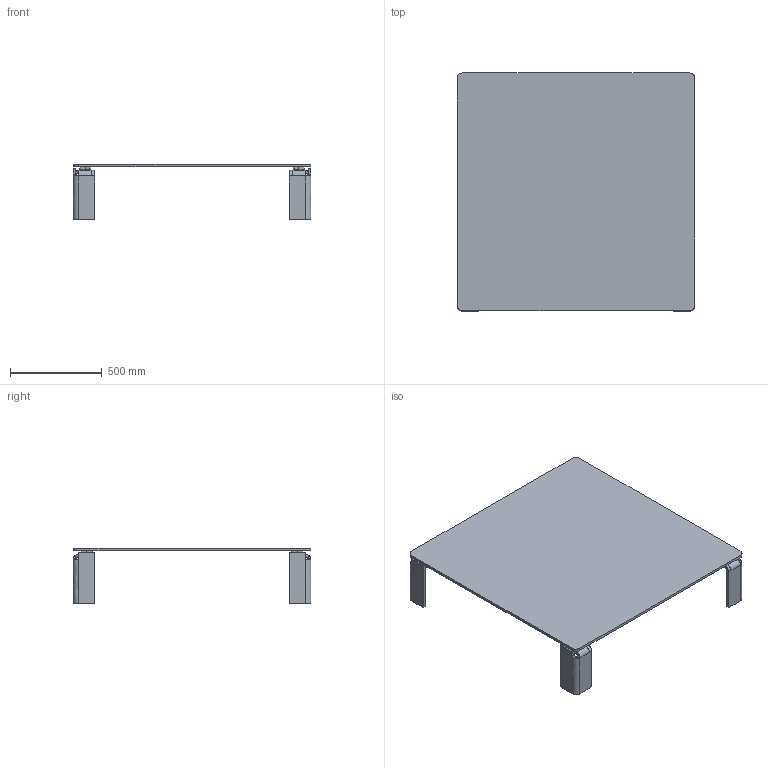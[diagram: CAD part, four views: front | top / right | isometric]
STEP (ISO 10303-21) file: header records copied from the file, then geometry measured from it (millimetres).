
FILE_DESCRIPTION(/* description */ (''),/* implementation_level */ '2;1');
FILE_NAME(/* name */ '103 - Newton 130x130 H30',/* time_stamp */ '2012-06-20T14:54:57+02:00',/* author */ (''),/* organization */ (''),/* preprocessor_version */ 'ST-DEVELOPER v10',/* originating_system */ '',/* authorisation */ '');
FILE_SCHEMA (('CONFIG_CONTROL_DESIGN'));
Length unit declared in the file: millimetre
Products named in the file (1): 1
Bounding box: 1300 x 1300 x 304 mm (x, y, z)
Volume: 29574334.1 mm3; surface area: 4187788 mm2
Topology: 17 solids, 17 shells, 224 faces, 514 edges, 316 vertices
Faces by surface type: bspline 126, plane 98
Entity records: 8556 total; most frequent: CARTESIAN_POINT 5180, ORIENTED_EDGE 1012, EDGE_CURVE 506, B_SPLINE_CURVE_WITH_KNOTS 362, VERTEX_POINT 316, EDGE_LOOP 248, ADVANCED_FACE 224, FACE_OUTER_BOUND 224
